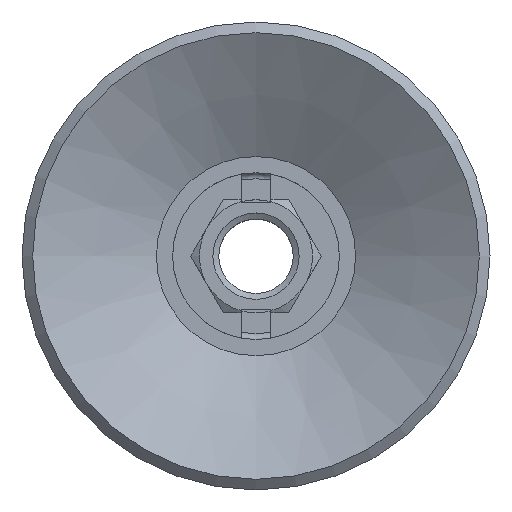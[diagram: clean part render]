
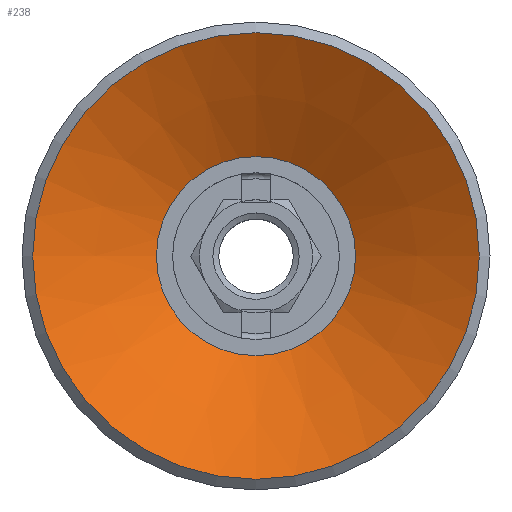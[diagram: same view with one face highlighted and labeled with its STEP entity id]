
A CAD part, top view. The second image highlights one B-rep face of the part: STEP entity #238.
In plain terms, the highlighted conical face has half-angle 60 degrees and reference radius 16.715 mm.
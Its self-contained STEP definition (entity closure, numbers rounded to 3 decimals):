
#238=ADVANCED_FACE('',(#526,#527),#528,.F.);
#526=FACE_OUTER_BOUND('',#901,.T.);
#527=FACE_BOUND('',#902,.T.);
#528=CONICAL_SURFACE('',#903,16.715,1.047);
#901=EDGE_LOOP('',(#1262));
#902=EDGE_LOOP('',(#1263));
#903=AXIS2_PLACEMENT_3D('',#1264,#1265,#1266);
#1262=ORIENTED_EDGE('',*,*,#2223,.T.);
#1263=ORIENTED_EDGE('',*,*,#2221,.F.);
#1264=CARTESIAN_POINT('',(0.0,12.0,0.0));
#1265=DIRECTION('',(0.0,-1.0,-0.0));
#1266=DIRECTION('',(0.0,0.0,-1.0));
#2221=EDGE_CURVE('',#2606,#2606,#2607,.T.);
#2223=EDGE_CURVE('',#2609,#2609,#2610,.T.);
#2606=VERTEX_POINT('',#3169);
#2607=CIRCLE('',#3170,16.715);
#2609=VERTEX_POINT('',#3172);
#2610=CIRCLE('',#3173,37.5);
#3169=CARTESIAN_POINT('',(0.0,12.0,-16.715));
#3170=AXIS2_PLACEMENT_3D('',#4124,#4125,#4126);
#3172=CARTESIAN_POINT('',(0.0,0.,-37.5));
#3173=AXIS2_PLACEMENT_3D('',#4127,#4128,#4129);
#4124=CARTESIAN_POINT('',(0.0,12.0,0.0));
#4125=DIRECTION('',(0.0,-1.0,0.0));
#4126=DIRECTION('',(0.0,0.0,-1.0));
#4127=CARTESIAN_POINT('',(0.0,0.,0.0));
#4128=DIRECTION('',(0.0,-1.0,0.0));
#4129=DIRECTION('',(0.0,0.0,-1.0));
